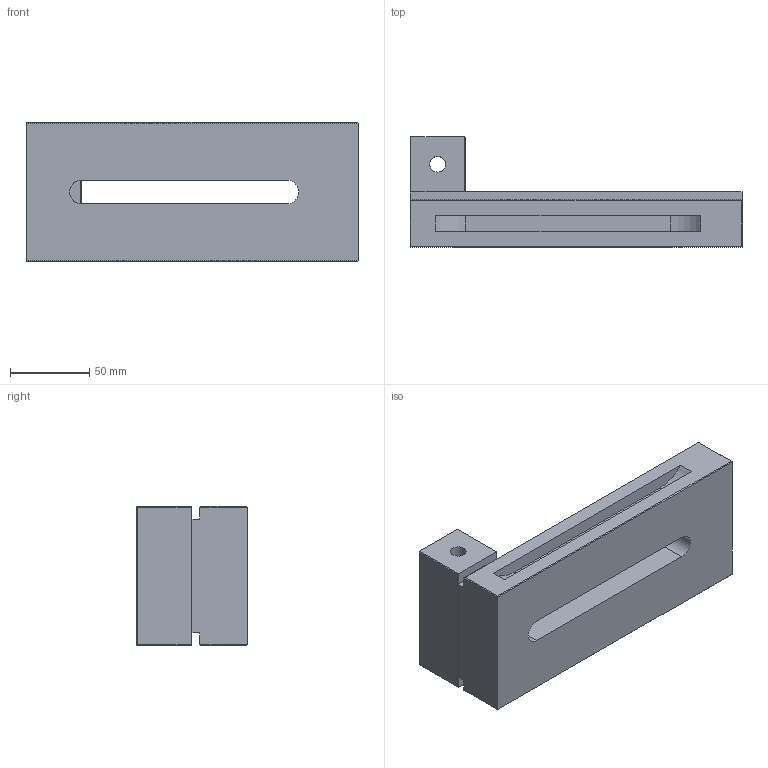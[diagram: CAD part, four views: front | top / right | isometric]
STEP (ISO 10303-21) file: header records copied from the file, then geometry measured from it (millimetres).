
FILE_DESCRIPTION (( 'STEP AP203' ), '1' );
FILE_NAME ('etau out 88.STEP', '2009-12-04T11:21:02', ( 'Famille Couzi' ), ( '' ), 'SwSTEP 2.0', 'SolidWorks 2005143', '' );
FILE_SCHEMA (( 'CONFIG_CONTROL_DESIGN' ));
Length unit declared in the file: millimetre
Products named in the file (1): etau out 88
Bounding box: 210 x 70 x 88 mm (x, y, z)
Volume: 629745.9 mm3; surface area: 81776.3 mm2
Topology: 1 solids, 1 shells, 52 faces, 125 edges, 76 vertices
Faces by surface type: plane 43, cylinder 9
Entity records: 1558 total; most frequent: CARTESIAN_POINT 254, DIRECTION 251, ORIENTED_EDGE 250, EDGE_CURVE 125, LINE 105, VECTOR 105, VERTEX_POINT 76, AXIS2_PLACEMENT_3D 73
